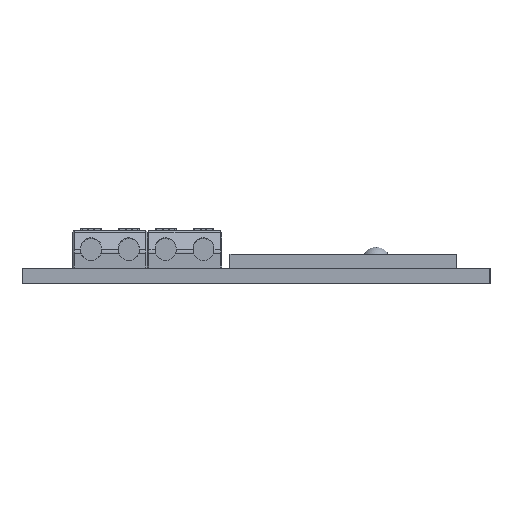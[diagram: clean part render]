
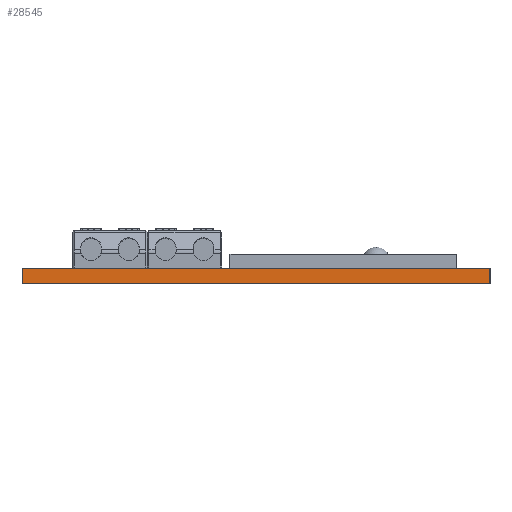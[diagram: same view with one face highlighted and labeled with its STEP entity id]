
A CAD part, left-side view. The second image highlights one B-rep face of the part: STEP entity #28545.
In plain terms, the highlighted planar face has unit normal (-1, 0, 0).
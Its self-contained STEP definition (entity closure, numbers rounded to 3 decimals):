
#868=LINE('',#42304,#3690);
#2983=LINE('',#50318,#5805);
#2984=LINE('',#50321,#5806);
#2985=LINE('',#50322,#5807);
#3690=VECTOR('',#32075,10.);
#5805=VECTOR('',#37320,10.);
#5806=VECTOR('',#37323,10.);
#5807=VECTOR('',#37324,10.);
#8491=FACE_OUTER_BOUND('',#10225,.T.);
#10225=EDGE_LOOP('',(#25114,#25115,#25116,#25117));
#11707=VERTEX_POINT('',#42297);
#11710=VERTEX_POINT('',#42302);
#13496=VERTEX_POINT('',#50316);
#13497=VERTEX_POINT('',#50320);
#14668=EDGE_CURVE('',#11710,#11707,#868,.T.);
#17393=EDGE_CURVE('',#11710,#13496,#2983,.T.);
#17394=EDGE_CURVE('',#13497,#13496,#2984,.T.);
#17395=EDGE_CURVE('',#11707,#13497,#2985,.T.);
#25114=ORIENTED_EDGE('',*,*,#14668,.F.);
#25115=ORIENTED_EDGE('',*,*,#17393,.T.);
#25116=ORIENTED_EDGE('',*,*,#17394,.F.);
#25117=ORIENTED_EDGE('',*,*,#17395,.F.);
#26147=PLANE('',#30577);
#28545=ADVANCED_FACE('',(#8491),#26147,.T.);
#30577=AXIS2_PLACEMENT_3D('',#50319,#37321,#37322);
#32075=DIRECTION('',(0.,-1.,0.));
#37320=DIRECTION('',(0.,0.,-1.));
#37321=DIRECTION('center_axis',(-1.,0.,0.));
#37322=DIRECTION('ref_axis',(0.,1.,0.));
#37323=DIRECTION('',(0.,1.,0.));
#37324=DIRECTION('',(0.,0.,-1.));
#42297=CARTESIAN_POINT('',(0.,0.,0.));
#42302=CARTESIAN_POINT('',(0.,49.5,0.));
#42304=CARTESIAN_POINT('',(0.,49.5,0.));
#50316=CARTESIAN_POINT('',(0.,49.5,-1.6));
#50318=CARTESIAN_POINT('',(0.,49.5,0.));
#50319=CARTESIAN_POINT('Origin',(0.,0.,0.));
#50320=CARTESIAN_POINT('',(0.,0.,-1.6));
#50321=CARTESIAN_POINT('',(0.,49.5,-1.6));
#50322=CARTESIAN_POINT('',(0.,0.,0.));
